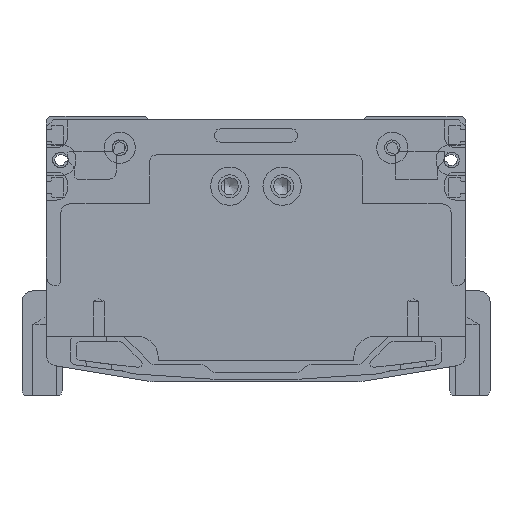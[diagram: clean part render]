
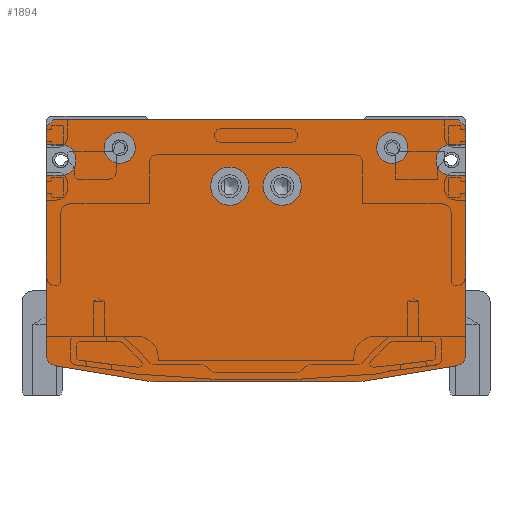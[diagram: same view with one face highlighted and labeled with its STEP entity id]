
A CAD part, front view. The second image highlights one B-rep face of the part: STEP entity #1894.
In plain terms, the highlighted planar face has unit normal (0, -1, 0).
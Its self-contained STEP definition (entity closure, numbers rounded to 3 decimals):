
#1894=ADVANCED_FACE('',(#5556,#5557,#5558,#5559,#5560),#2637,.F.);
#2637=PLANE('',#18803);
#3231=LINE('',#27644,#4415);
#3235=LINE('',#27652,#4419);
#3371=LINE('',#28644,#4555);
#3398=LINE('',#28698,#4582);
#3402=LINE('',#28706,#4586);
#3576=LINE('',#29893,#4760);
#3578=LINE('',#29896,#4762);
#3582=LINE('',#29903,#4766);
#3585=LINE('',#29912,#4769);
#3598=LINE('',#29947,#4782);
#3603=LINE('',#29961,#4787);
#3607=LINE('',#29973,#4791);
#3629=LINE('',#30035,#4813);
#3632=LINE('',#30044,#4816);
#4415=VECTOR('',#21159,1.);
#4419=VECTOR('',#21163,1.);
#4555=VECTOR('',#21615,1.);
#4582=VECTOR('',#21656,1.);
#4586=VECTOR('',#21660,1.);
#4760=VECTOR('',#22468,1.);
#4762=VECTOR('',#22472,1.);
#4766=VECTOR('',#22478,1.);
#4769=VECTOR('',#22489,1.);
#4782=VECTOR('',#22522,1.);
#4787=VECTOR('',#22535,1.);
#4791=VECTOR('',#22547,1.);
#4813=VECTOR('',#22623,1.);
#4816=VECTOR('',#22634,1.);
#5556=FACE_BOUND('',#6925,.T.);
#5557=FACE_BOUND('',#6926,.T.);
#5558=FACE_BOUND('',#6927,.T.);
#5559=FACE_BOUND('',#6928,.T.);
#5560=FACE_BOUND('',#6929,.T.);
#6925=EDGE_LOOP('',(#10305));
#6926=EDGE_LOOP('',(#10306));
#6927=EDGE_LOOP('',(#10307,#10308,#10309,#10310,#10311,#10312,#10313,#10314,
#10315,#10316,#10317,#10318,#10319,#10320,#10321,#10322,#10323,#10324,#10325,
#10326));
#6928=EDGE_LOOP('',(#10327));
#6929=EDGE_LOOP('',(#10328));
#10305=ORIENTED_EDGE('',*,*,#15857,.T.);
#10306=ORIENTED_EDGE('',*,*,#15861,.T.);
#10307=ORIENTED_EDGE('',*,*,#15922,.T.);
#10308=ORIENTED_EDGE('',*,*,#15918,.F.);
#10309=ORIENTED_EDGE('',*,*,#15916,.F.);
#10310=ORIENTED_EDGE('',*,*,#15913,.F.);
#10311=ORIENTED_EDGE('',*,*,#15909,.T.);
#10312=ORIENTED_EDGE('',*,*,#15906,.T.);
#10313=ORIENTED_EDGE('',*,*,#15551,.F.);
#10314=ORIENTED_EDGE('',*,*,#15892,.T.);
#10315=ORIENTED_EDGE('',*,*,#15889,.T.);
#10316=ORIENTED_EDGE('',*,*,#15887,.F.);
#10317=ORIENTED_EDGE('',*,*,#15547,.F.);
#10318=ORIENTED_EDGE('',*,*,#15883,.T.);
#10319=ORIENTED_EDGE('',*,*,#15520,.F.);
#10320=ORIENTED_EDGE('',*,*,#15881,.T.);
#10321=ORIENTED_EDGE('',*,*,#15245,.F.);
#10322=ORIENTED_EDGE('',*,*,#15957,.T.);
#10323=ORIENTED_EDGE('',*,*,#15954,.T.);
#10324=ORIENTED_EDGE('',*,*,#15952,.F.);
#10325=ORIENTED_EDGE('',*,*,#15241,.F.);
#10326=ORIENTED_EDGE('',*,*,#15925,.T.);
#10327=ORIENTED_EDGE('',*,*,#15868,.F.);
#10328=ORIENTED_EDGE('',*,*,#15864,.F.);
#13309=VERTEX_POINT('',#27643);
#13310=VERTEX_POINT('',#27645);
#13313=VERTEX_POINT('',#27651);
#13314=VERTEX_POINT('',#27653);
#13449=VERTEX_POINT('',#28643);
#13450=VERTEX_POINT('',#28645);
#13469=VERTEX_POINT('',#28697);
#13470=VERTEX_POINT('',#28699);
#13473=VERTEX_POINT('',#28705);
#13474=VERTEX_POINT('',#28707);
#13689=VERTEX_POINT('',#29836);
#13693=VERTEX_POINT('',#29847);
#13696=VERTEX_POINT('',#29856);
#13699=VERTEX_POINT('',#29866);
#13707=VERTEX_POINT('',#29901);
#13709=VERTEX_POINT('',#29908);
#13720=VERTEX_POINT('',#29942);
#13722=VERTEX_POINT('',#29948);
#13725=VERTEX_POINT('',#29956);
#13727=VERTEX_POINT('',#29962);
#13728=VERTEX_POINT('',#29966);
#13731=VERTEX_POINT('',#29974);
#13743=VERTEX_POINT('',#30033);
#13745=VERTEX_POINT('',#30040);
#15241=EDGE_CURVE('',#13309,#13310,#3231,.T.);
#15245=EDGE_CURVE('',#13313,#13314,#3235,.T.);
#15520=EDGE_CURVE('',#13449,#13450,#3371,.T.);
#15547=EDGE_CURVE('',#13469,#13470,#3398,.T.);
#15551=EDGE_CURVE('',#13473,#13474,#3402,.T.);
#15857=EDGE_CURVE('',#13689,#13689,#17288,.T.);
#15861=EDGE_CURVE('',#13693,#13693,#17292,.T.);
#15864=EDGE_CURVE('',#13696,#13696,#17295,.T.);
#15868=EDGE_CURVE('',#13699,#13699,#17299,.T.);
#15881=EDGE_CURVE('',#13449,#13314,#3576,.T.);
#15883=EDGE_CURVE('',#13469,#13450,#3578,.T.);
#15887=EDGE_CURVE('',#13470,#13707,#3582,.T.);
#15889=EDGE_CURVE('',#13709,#13707,#17306,.T.);
#15892=EDGE_CURVE('',#13473,#13709,#3585,.T.);
#15906=EDGE_CURVE('',#13720,#13474,#17309,.T.);
#15909=EDGE_CURVE('',#13722,#13720,#3598,.T.);
#15913=EDGE_CURVE('',#13722,#13725,#17312,.T.);
#15916=EDGE_CURVE('',#13725,#13727,#3603,.T.);
#15918=EDGE_CURVE('',#13727,#13728,#17313,.T.);
#15922=EDGE_CURVE('',#13731,#13728,#3607,.T.);
#15925=EDGE_CURVE('',#13309,#13731,#17316,.T.);
#15952=EDGE_CURVE('',#13310,#13743,#3629,.T.);
#15954=EDGE_CURVE('',#13745,#13743,#17324,.T.);
#15957=EDGE_CURVE('',#13313,#13745,#3632,.T.);
#17288=CIRCLE('',#18704,5.5);
#17292=CIRCLE('',#18711,5.5);
#17295=CIRCLE('',#18717,4.5);
#17299=CIRCLE('',#18724,4.5);
#17306=CIRCLE('',#18742,4.5);
#17309=CIRCLE('',#18751,3.);
#17312=CIRCLE('',#18756,10.);
#17313=CIRCLE('',#18759,10.);
#17316=CIRCLE('',#18764,3.);
#17324=CIRCLE('',#18791,4.5);
#18704=AXIS2_PLACEMENT_3D('',#29835,#22393,#22394);
#18711=AXIS2_PLACEMENT_3D('',#29846,#22407,#22408);
#18717=AXIS2_PLACEMENT_3D('',#29855,#22419,#22420);
#18724=AXIS2_PLACEMENT_3D('',#29865,#22433,#22434);
#18742=AXIS2_PLACEMENT_3D('',#29907,#22483,#22484);
#18751=AXIS2_PLACEMENT_3D('',#29941,#22515,#22516);
#18756=AXIS2_PLACEMENT_3D('',#29955,#22529,#22530);
#18759=AXIS2_PLACEMENT_3D('',#29965,#22539,#22540);
#18764=AXIS2_PLACEMENT_3D('',#29978,#22553,#22554);
#18791=AXIS2_PLACEMENT_3D('',#30039,#22628,#22629);
#18803=AXIS2_PLACEMENT_3D('',#30061,#22659,#22660);
#21159=DIRECTION('',(0.,0.,1.));
#21163=DIRECTION('',(0.,0.,1.));
#21615=DIRECTION('',(1.,0.,0.));
#21656=DIRECTION('',(0.,0.,-1.));
#21660=DIRECTION('',(0.,0.,-1.));
#22393=DIRECTION('',(0.,1.,0.));
#22394=DIRECTION('',(1.,0.,0.));
#22407=DIRECTION('',(0.,1.,0.));
#22408=DIRECTION('',(1.,0.,0.));
#22419=DIRECTION('',(0.,-1.,0.));
#22420=DIRECTION('',(1.,0.,0.));
#22433=DIRECTION('',(0.,-1.,0.));
#22434=DIRECTION('',(1.,0.,0.));
#22468=DIRECTION('',(-0.707,0.,-0.707));
#22472=DIRECTION('',(-0.707,0.,0.707));
#22478=DIRECTION('',(-1.,0.,0.));
#22483=DIRECTION('',(0.,1.,0.));
#22484=DIRECTION('',(0.,0.,-1.));
#22489=DIRECTION('',(-1.,0.,0.));
#22515=DIRECTION('',(0.,-1.,0.));
#22516=DIRECTION('',(0.164,0.,-0.986));
#22522=DIRECTION('',(0.986,0.,0.164));
#22529=DIRECTION('',(0.,1.,0.));
#22530=DIRECTION('',(0.164,0.,-0.986));
#22535=DIRECTION('',(-1.,0.,0.));
#22539=DIRECTION('',(0.,1.,0.));
#22540=DIRECTION('',(0.,0.,-1.));
#22547=DIRECTION('',(0.986,0.,-0.164));
#22553=DIRECTION('',(0.,-1.,0.));
#22554=DIRECTION('',(-1.,0.,0.));
#22623=DIRECTION('',(1.,0.,0.));
#22628=DIRECTION('',(0.,1.,0.));
#22629=DIRECTION('',(0.,0.,1.));
#22634=DIRECTION('',(1.,0.,0.));
#22659=DIRECTION('',(0.,1.,0.));
#22660=DIRECTION('',(1.,0.,0.));
#27643=CARTESIAN_POINT('',(-60.,-2812.,-69.459));
#27644=CARTESIAN_POINT('',(-60.,-2812.,-69.459));
#27645=CARTESIAN_POINT('',(-60.,-2812.,-18.));
#27651=CARTESIAN_POINT('',(-60.,-2812.,-9.));
#27652=CARTESIAN_POINT('',(-60.,-2812.,-9.));
#27653=CARTESIAN_POINT('',(-60.,-2812.,-4.));
#28643=CARTESIAN_POINT('',(-58.,-2812.,-2.));
#28644=CARTESIAN_POINT('',(-58.,-2812.,-2.));
#28645=CARTESIAN_POINT('',(58.,-2812.,-2.));
#28697=CARTESIAN_POINT('',(60.,-2812.,-4.));
#28698=CARTESIAN_POINT('',(60.,-2812.,-4.));
#28699=CARTESIAN_POINT('',(60.,-2812.,-9.));
#28705=CARTESIAN_POINT('',(60.,-2812.,-18.));
#28706=CARTESIAN_POINT('',(60.,-2812.,-18.));
#28707=CARTESIAN_POINT('',(60.,-2812.,-69.459));
#29835=CARTESIAN_POINT('',(7.5,-2812.,-21.));
#29836=CARTESIAN_POINT('',(13.,-2812.,-21.));
#29846=CARTESIAN_POINT('',(-7.5,-2812.,-21.));
#29847=CARTESIAN_POINT('',(-2.,-2812.,-21.));
#29855=CARTESIAN_POINT('',(-39.,-2812.,-10.));
#29856=CARTESIAN_POINT('',(-34.5,-2812.,-10.));
#29865=CARTESIAN_POINT('',(39.,-2812.,-10.));
#29866=CARTESIAN_POINT('',(43.5,-2812.,-10.));
#29893=CARTESIAN_POINT('',(-58.,-2812.,-2.));
#29896=CARTESIAN_POINT('',(60.,-2812.,-4.));
#29901=CARTESIAN_POINT('',(56.,-2812.,-9.));
#29903=CARTESIAN_POINT('',(60.,-2812.,-9.));
#29907=CARTESIAN_POINT('',(56.,-2812.,-13.5));
#29908=CARTESIAN_POINT('',(56.,-2812.,-18.));
#29912=CARTESIAN_POINT('',(60.,-2812.,-18.));
#29941=CARTESIAN_POINT('',(57.,-2812.,-69.459));
#29942=CARTESIAN_POINT('',(57.493,-2812.,-72.418));
#29947=CARTESIAN_POINT('',(30.816,-2812.,-76.864));
#29948=CARTESIAN_POINT('',(30.816,-2812.,-76.864));
#29955=CARTESIAN_POINT('',(29.172,-2812.,-67.));
#29956=CARTESIAN_POINT('',(29.172,-2812.,-77.));
#29961=CARTESIAN_POINT('',(29.172,-2812.,-77.));
#29962=CARTESIAN_POINT('',(-29.172,-2812.,-77.));
#29965=CARTESIAN_POINT('',(-29.172,-2812.,-67.));
#29966=CARTESIAN_POINT('',(-30.816,-2812.,-76.864));
#29973=CARTESIAN_POINT('',(-57.493,-2812.,-72.418));
#29974=CARTESIAN_POINT('',(-57.493,-2812.,-72.418));
#29978=CARTESIAN_POINT('',(-57.,-2812.,-69.459));
#30033=CARTESIAN_POINT('',(-56.,-2812.,-18.));
#30035=CARTESIAN_POINT('',(-60.,-2812.,-18.));
#30039=CARTESIAN_POINT('',(-56.,-2812.,-13.5));
#30040=CARTESIAN_POINT('',(-56.,-2812.,-9.));
#30044=CARTESIAN_POINT('',(-60.,-2812.,-9.));
#30061=CARTESIAN_POINT('',(0.,-2812.,-2.));
